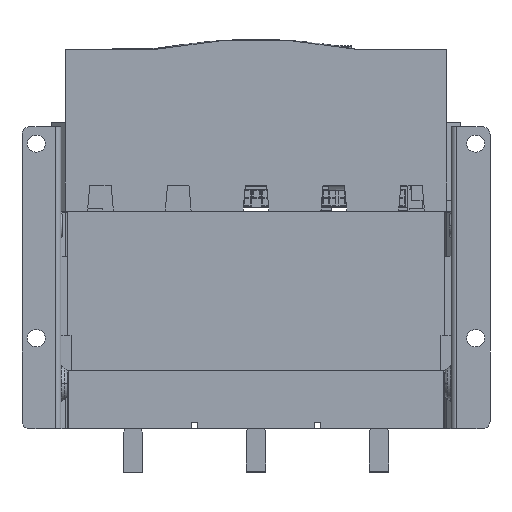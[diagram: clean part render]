
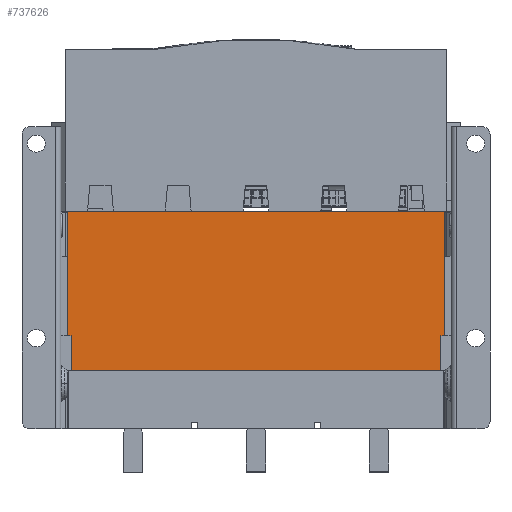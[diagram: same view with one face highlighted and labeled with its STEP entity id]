
A CAD part, front view. The second image highlights one B-rep face of the part: STEP entity #737626.
In plain terms, the highlighted planar face has unit normal (0, -1, 0).
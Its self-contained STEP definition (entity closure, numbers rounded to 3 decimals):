
#735481=CARTESIAN_POINT(' ',(-231.428,-111.628,70.357));
#735482=VERTEX_POINT(' ',#735481);
#735496=CARTESIAN_POINT(' ',(-234.428,-111.628,70.357));
#735501=DIRECTION(' ',(1.,0.,0.));
#735506=VECTOR(' ',#735501,1.);
#735511=LINE('',#735496,#735506);
#735516=CARTESIAN_POINT(' ',(-234.428,-111.628,70.357));
#735517=VERTEX_POINT(' ',#735516);
#735521=EDGE_CURVE(' ',#735517,#735482,#735511,.T.);
#737206=CARTESIAN_POINT(' ',(-231.428,-111.628,43.357));
#737207=VERTEX_POINT(' ',#737206);
#737221=CARTESIAN_POINT(' ',(-231.428,-111.628,70.357));
#737226=DIRECTION(' ',(0.,0.,-1.));
#737231=VECTOR(' ',#737226,1.);
#737236=LINE('',#737221,#737231);
#737241=EDGE_CURVE(' ',#735482,#737207,#737236,.T.);
#737376=DIRECTION(' ',(0.,-1.,0.));
#737381=CARTESIAN_POINT(' ',(-234.428,-111.628,166.357));
#737386=DIRECTION(' ',(0.,0.,-1.));
#737391=AXIS2_PLACEMENT_3D(' ',#737381,#737376,#737386);
#737396=PLANE('',#737391);
#737401=ORIENTED_EDGE(' ',*,*,#735521,.T.);
#737406=ORIENTED_EDGE(' ',*,*,#737241,.T.);
#737411=CARTESIAN_POINT(' ',(-231.428,-111.628,43.357));
#737416=DIRECTION(' ',(1.,0.,0.));
#737421=VECTOR(' ',#737416,1.);
#737426=LINE('',#737411,#737421);
#737431=CARTESIAN_POINT(' ',(53.572,-111.628,43.357));
#737432=VERTEX_POINT(' ',#737431);
#737436=EDGE_CURVE(' ',#737207,#737432,#737426,.T.);
#737441=ORIENTED_EDGE(' ',*,*,#737436,.T.);
#737446=CARTESIAN_POINT(' ',(53.572,-111.628,43.357));
#737451=DIRECTION(' ',(0.,0.,1.));
#737456=VECTOR(' ',#737451,1.);
#737461=LINE('',#737446,#737456);
#737466=CARTESIAN_POINT(' ',(53.572,-111.628,70.357));
#737467=VERTEX_POINT(' ',#737466);
#737471=EDGE_CURVE(' ',#737432,#737467,#737461,.T.);
#737476=ORIENTED_EDGE(' ',*,*,#737471,.T.);
#737481=CARTESIAN_POINT(' ',(53.572,-111.628,70.357));
#737486=DIRECTION(' ',(1.,0.,0.));
#737491=VECTOR(' ',#737486,1.);
#737496=LINE('',#737481,#737491);
#737501=CARTESIAN_POINT(' ',(56.572,-111.628,70.357));
#737502=VERTEX_POINT(' ',#737501);
#737506=EDGE_CURVE(' ',#737467,#737502,#737496,.T.);
#737511=ORIENTED_EDGE(' ',*,*,#737506,.T.);
#737516=CARTESIAN_POINT(' ',(56.572,-111.628,166.357));
#737521=DIRECTION(' ',(0.,0.,-1.));
#737526=VECTOR(' ',#737521,1.);
#737531=LINE('',#737516,#737526);
#737536=CARTESIAN_POINT(' ',(56.572,-111.628,166.357));
#737537=VERTEX_POINT(' ',#737536);
#737541=EDGE_CURVE(' ',#737537,#737502,#737531,.T.);
#737546=ORIENTED_EDGE(' ',*,*,#737541,.F.);
#737551=CARTESIAN_POINT(' ',(-234.428,-111.628,166.357));
#737556=DIRECTION(' ',(1.,0.,0.));
#737561=VECTOR(' ',#737556,1.);
#737566=LINE('',#737551,#737561);
#737571=CARTESIAN_POINT(' ',(-234.428,-111.628,166.357));
#737572=VERTEX_POINT(' ',#737571);
#737576=EDGE_CURVE(' ',#737572,#737537,#737566,.T.);
#737581=ORIENTED_EDGE(' ',*,*,#737576,.F.);
#737586=CARTESIAN_POINT(' ',(-234.428,-111.628,166.357));
#737591=DIRECTION(' ',(0.,0.,-1.));
#737596=VECTOR(' ',#737591,1.);
#737601=LINE('',#737586,#737596);
#737606=EDGE_CURVE(' ',#737572,#735517,#737601,.T.);
#737611=ORIENTED_EDGE(' ',*,*,#737606,.T.);
#737616=EDGE_LOOP(' ',(#737401,#737406,#737441,#737476,#737511,#737546,#737581,#737611));
#737621=FACE_OUTER_BOUND(' ',#737616,.T.);
#737626=ADVANCED_FACE('NONE',(#737621),#737396,.T.);
